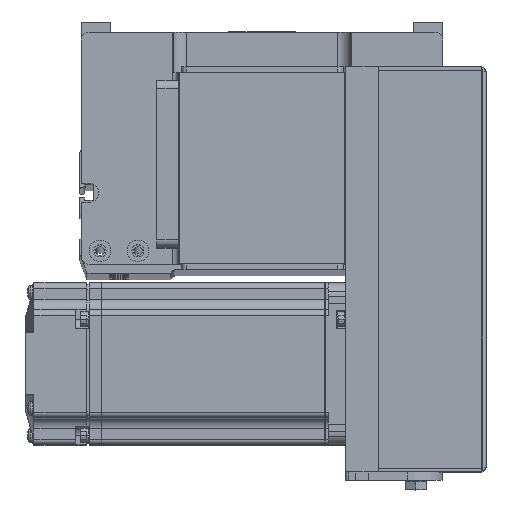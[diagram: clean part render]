
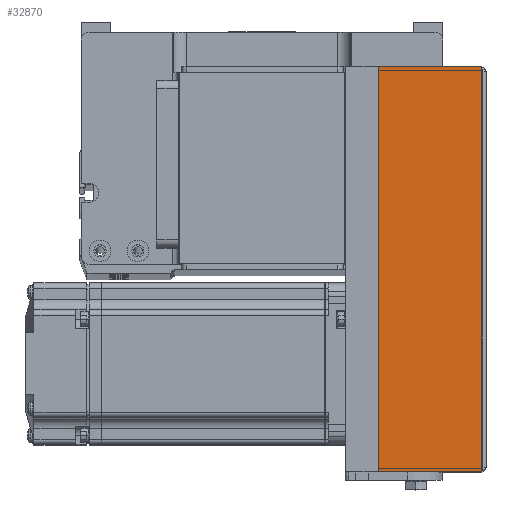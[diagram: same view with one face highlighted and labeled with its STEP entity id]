
A CAD part, top view. The second image highlights one B-rep face of the part: STEP entity #32870.
In plain terms, the highlighted planar face has unit normal (0, 0, 1) as drawn and (0, 1, 0) by its records, which use the part's own axes.
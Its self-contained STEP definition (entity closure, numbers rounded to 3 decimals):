
#737 = CARTESIAN_POINT ( 'NONE',  ( 75., 36., 12. ) ) ;
#3277 = VERTEX_POINT ( 'NONE', #18506 ) ;
#3498 = VERTEX_POINT ( 'NONE', #737 ) ;
#4622 = DIRECTION ( 'NONE',  ( 0., 0., -1. ) ) ;
#5245 = PLANE ( 'NONE',  #17564 ) ;
#6696 = DIRECTION ( 'NONE',  ( 0., 0., -1. ) ) ;
#7422 = VECTOR ( 'NONE', #4622, 1000. ) ;
#10568 = FACE_OUTER_BOUND ( 'NONE', #39410, .T. ) ;
#11037 = CARTESIAN_POINT ( 'NONE',  ( 75., 36., 50.3 ) ) ;
#13409 = ORIENTED_EDGE ( 'NONE', *, *, #36873, .T. ) ;
#14245 = EDGE_CURVE ( 'NONE', #3277, #34346, #32743, .T. ) ;
#14786 = ORIENTED_EDGE ( 'NONE', *, *, #14245, .F. ) ;
#15417 = EDGE_CURVE ( 'NONE', #38396, #3277, #24750, .T. ) ;
#17403 = CARTESIAN_POINT ( 'NONE',  ( 0., 36., 12. ) ) ;
#17564 = AXIS2_PLACEMENT_3D ( 'NONE', #30342, #18514, #37068 ) ;
#18506 = CARTESIAN_POINT ( 'NONE',  ( -75., 36., 50.3 ) ) ;
#18514 = DIRECTION ( 'NONE',  ( 0., -1., 0. ) ) ;
#19660 = DIRECTION ( 'NONE',  ( -1., 0., 0. ) ) ;
#22471 = EDGE_CURVE ( 'NONE', #38396, #3498, #31576, .T. ) ;
#23304 = LINE ( 'NONE', #17403, #25721 ) ;
#24750 = LINE ( 'NONE', #31469, #29608 ) ;
#25721 = VECTOR ( 'NONE', #19660, 1000. ) ;
#26227 = CARTESIAN_POINT ( 'NONE',  ( -75., 36., 50.3 ) ) ;
#28527 = CARTESIAN_POINT ( 'NONE',  ( 75., 36., 50.3 ) ) ;
#29087 = VECTOR ( 'NONE', #6696, 1000. ) ;
#29608 = VECTOR ( 'NONE', #38003, 1000. ) ;
#30342 = CARTESIAN_POINT ( 'NONE',  ( 0., 36., 50.8 ) ) ;
#31469 = CARTESIAN_POINT ( 'NONE',  ( -75., 36., 50.3 ) ) ;
#31576 = LINE ( 'NONE', #28527, #29087 ) ;
#32306 = ORIENTED_EDGE ( 'NONE', *, *, #15417, .F. ) ;
#32743 = LINE ( 'NONE', #26227, #7422 ) ;
#32870 = ADVANCED_FACE ( 'NONE', ( #10568 ), #5245, .F. ) ;
#33294 = ORIENTED_EDGE ( 'NONE', *, *, #22471, .T. ) ;
#34346 = VERTEX_POINT ( 'NONE', #39678 ) ;
#36873 = EDGE_CURVE ( 'NONE', #3498, #34346, #23304, .T. ) ;
#37068 = DIRECTION ( 'NONE',  ( 0., 0., 1. ) ) ;
#38003 = DIRECTION ( 'NONE',  ( -1., 0., 0. ) ) ;
#38396 = VERTEX_POINT ( 'NONE', #11037 ) ;
#39410 = EDGE_LOOP ( 'NONE', ( #32306, #33294, #13409, #14786 ) ) ;
#39678 = CARTESIAN_POINT ( 'NONE',  ( -75., 36., 12. ) ) ;
